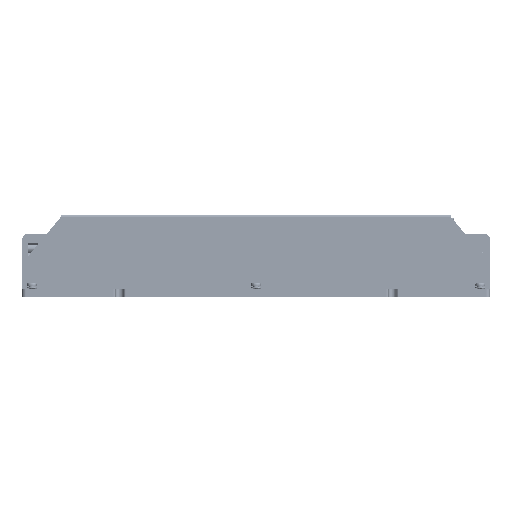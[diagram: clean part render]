
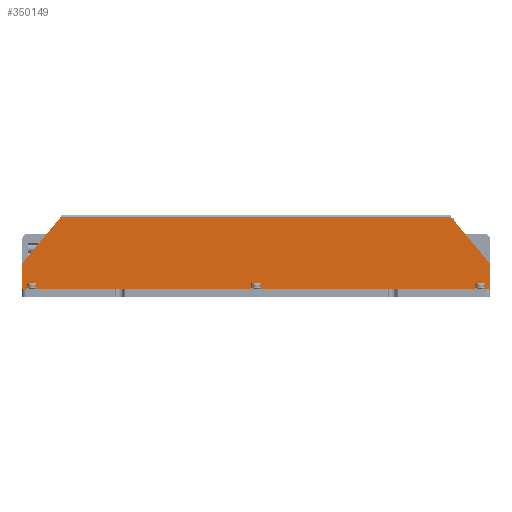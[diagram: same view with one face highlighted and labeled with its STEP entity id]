
A CAD part, top view. The second image highlights one B-rep face of the part: STEP entity #350149.
In plain terms, the highlighted planar face has unit normal (0, 0, 1).
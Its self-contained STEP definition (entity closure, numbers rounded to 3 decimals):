
#1903 = VECTOR ( 'NONE', #237208, 1000. ) ;
#1913 = DIRECTION ( 'NONE',  ( 0., 0., 1. ) ) ;
#23670 = DIRECTION ( 'NONE',  ( -1., 0., 0. ) ) ;
#25548 = CARTESIAN_POINT ( 'NONE',  ( 315.054, 169.618, 86.283 ) ) ;
#25745 = CARTESIAN_POINT ( 'NONE',  ( 317.054, 194.332, 86.283 ) ) ;
#30688 = AXIS2_PLACEMENT_3D ( 'NONE', #201932, #53298, #172568 ) ;
#31301 = CARTESIAN_POINT ( 'NONE',  ( 297.054, 194.332, 86.283 ) ) ;
#37101 = VERTEX_POINT ( 'NONE', #302113 ) ;
#49411 = ORIENTED_EDGE ( 'NONE', *, *, #246516, .T. ) ;
#53298 = DIRECTION ( 'NONE',  ( 0., 0., -1. ) ) ;
#61238 = DIRECTION ( 'NONE',  ( -0.64, -0.768, 0. ) ) ;
#75083 = ORIENTED_EDGE ( 'NONE', *, *, #149650, .T. ) ;
#78779 = PLANE ( 'NONE',  #30688 ) ;
#80814 = LINE ( 'NONE', #229549, #1903 ) ;
#85693 = EDGE_CURVE ( 'NONE', #214286, #37101, #380113, .T. ) ;
#86746 = LINE ( 'NONE', #153102, #127685 ) ;
#89817 = DIRECTION ( 'NONE',  ( 0., 0., 1. ) ) ;
#93235 = ORIENTED_EDGE ( 'NONE', *, *, #342104, .F. ) ;
#103634 = ORIENTED_EDGE ( 'NONE', *, *, #128267, .F. ) ;
#111998 = DIRECTION ( 'NONE',  ( -1., 0., 0. ) ) ;
#114791 = CARTESIAN_POINT ( 'NONE',  ( 77.054, 169.618, 86.283 ) ) ;
#118278 = VERTEX_POINT ( 'NONE', #171743 ) ;
#127685 = VECTOR ( 'NONE', #61238, 1000. ) ;
#128267 = EDGE_CURVE ( 'NONE', #214286, #175061, #300490, .T. ) ;
#139431 = DIRECTION ( 'NONE',  ( 0., 1., 0. ) ) ;
#148921 = LINE ( 'NONE', #25745, #241185 ) ;
#149650 = EDGE_CURVE ( 'NONE', #153747, #338882, #80814, .T. ) ;
#149798 = VERTEX_POINT ( 'NONE', #230799 ) ;
#151754 = CARTESIAN_POINT ( 'NONE',  ( 297.054, 194.332, 86.283 ) ) ;
#153102 = CARTESIAN_POINT ( 'NONE',  ( 97.054, 194.332, 86.283 ) ) ;
#153747 = VERTEX_POINT ( 'NONE', #114791 ) ;
#161622 = CIRCLE ( 'NONE', #243012, 2. ) ;
#164879 = CARTESIAN_POINT ( 'NONE',  ( 297.054, 194.332, 86.283 ) ) ;
#171743 = CARTESIAN_POINT ( 'NONE',  ( 77.517, 170.898, 86.283 ) ) ;
#172568 = DIRECTION ( 'NONE',  ( 0., 1., 0. ) ) ;
#175061 = VERTEX_POINT ( 'NONE', #298185 ) ;
#182056 = EDGE_CURVE ( 'NONE', #149798, #227620, #148921, .T. ) ;
#182102 = DIRECTION ( 'NONE',  ( 0., -1., 0. ) ) ;
#182232 = VECTOR ( 'NONE', #23670, 1000. ) ;
#185497 = CARTESIAN_POINT ( 'NONE',  ( 317.054, 157.352, 86.283 ) ) ;
#193680 = EDGE_CURVE ( 'NONE', #118278, #153747, #161622, .T. ) ;
#195244 = ORIENTED_EDGE ( 'NONE', *, *, #182056, .F. ) ;
#198095 = CARTESIAN_POINT ( 'NONE',  ( 79.054, 169.618, 86.283 ) ) ;
#201932 = CARTESIAN_POINT ( 'NONE',  ( 297.054, 194.332, 86.283 ) ) ;
#204660 = AXIS2_PLACEMENT_3D ( 'NONE', #25548, #1913, #359959 ) ;
#214286 = VERTEX_POINT ( 'NONE', #31301 ) ;
#218574 = CARTESIAN_POINT ( 'NONE',  ( 77.054, 157.352, 86.283 ) ) ;
#227620 = VERTEX_POINT ( 'NONE', #185497 ) ;
#229549 = CARTESIAN_POINT ( 'NONE',  ( 77.054, 194.332, 86.283 ) ) ;
#230799 = CARTESIAN_POINT ( 'NONE',  ( 317.054, 169.618, 86.283 ) ) ;
#233090 = LINE ( 'NONE', #293624, #182232 ) ;
#237208 = DIRECTION ( 'NONE',  ( 0., -1., 0. ) ) ;
#241185 = VECTOR ( 'NONE', #182102, 1000. ) ;
#243012 = AXIS2_PLACEMENT_3D ( 'NONE', #198095, #89817, #139431 ) ;
#246516 = EDGE_CURVE ( 'NONE', #37101, #118278, #86746, .T. ) ;
#264545 = FACE_OUTER_BOUND ( 'NONE', #374434, .T. ) ;
#271438 = ORIENTED_EDGE ( 'NONE', *, *, #85693, .T. ) ;
#271769 = VECTOR ( 'NONE', #111998, 1000. ) ;
#279494 = CIRCLE ( 'NONE', #204660, 2. ) ;
#288603 = VECTOR ( 'NONE', #361082, 1000. ) ;
#293624 = CARTESIAN_POINT ( 'NONE',  ( 297.054, 157.352, 86.283 ) ) ;
#298185 = CARTESIAN_POINT ( 'NONE',  ( 316.59, 170.898, 86.283 ) ) ;
#299098 = ORIENTED_EDGE ( 'NONE', *, *, #359917, .T. ) ;
#300490 = LINE ( 'NONE', #151754, #288603 ) ;
#302113 = CARTESIAN_POINT ( 'NONE',  ( 97.054, 194.332, 86.283 ) ) ;
#329701 = ORIENTED_EDGE ( 'NONE', *, *, #193680, .T. ) ;
#338882 = VERTEX_POINT ( 'NONE', #218574 ) ;
#342104 = EDGE_CURVE ( 'NONE', #227620, #338882, #233090, .T. ) ;
#350149 = ADVANCED_FACE ( 'NONE', ( #264545 ), #78779, .F. ) ;
#359917 = EDGE_CURVE ( 'NONE', #149798, #175061, #279494, .T. ) ;
#359959 = DIRECTION ( 'NONE',  ( 0., 1., 0. ) ) ;
#361082 = DIRECTION ( 'NONE',  ( 0.64, -0.768, 0. ) ) ;
#374434 = EDGE_LOOP ( 'NONE', ( #49411, #329701, #75083, #93235, #195244, #299098, #103634, #271438 ) ) ;
#380113 = LINE ( 'NONE', #164879, #271769 ) ;
